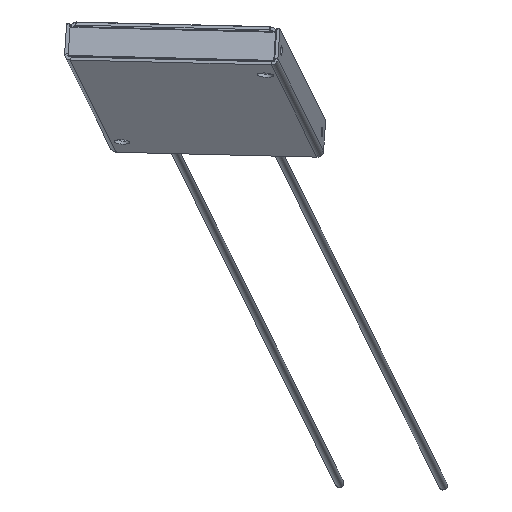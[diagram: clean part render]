
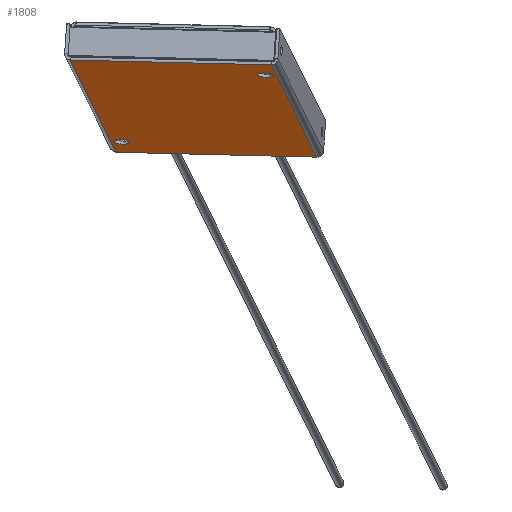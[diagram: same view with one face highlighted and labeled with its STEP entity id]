
A CAD part, left-side view. The second image highlights one B-rep face of the part: STEP entity #1808.
In plain terms, the highlighted planar face has unit normal (-0.27, 0.064, -0.961).
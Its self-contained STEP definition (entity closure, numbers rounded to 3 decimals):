
#85=LINE($,#2786,#238);
#87=LINE($,#2789,#240);
#103=LINE($,#2825,#256);
#104=LINE($,#2827,#257);
#238=VECTOR($,#2272,105.);
#240=VECTOR($,#2276,64.);
#256=VECTOR($,#2312,105.);
#257=VECTOR($,#2315,64.);
#365=PLANE($,#1957);
#427=FACE_BOUND($,#625,.T.);
#428=FACE_BOUND($,#626,.T.);
#429=FACE_BOUND($,#627,.T.);
#625=EDGE_LOOP($,(#1362));
#626=EDGE_LOOP($,(#1363));
#627=EDGE_LOOP($,(#1364,#1365,#1366,#1367));
#722=CIRCLE($,#1928,2.5);
#724=CIRCLE($,#1931,2.5);
#809=VERTEX_POINT($,#2672);
#836=VERTEX_POINT($,#2739);
#838=VERTEX_POINT($,#2744);
#848=VERTEX_POINT($,#2771);
#849=VERTEX_POINT($,#2775);
#859=VERTEX_POINT($,#2815);
#996=EDGE_CURVE($,#836,#836,#722,.T.);
#998=EDGE_CURVE($,#838,#838,#724,.T.);
#1018=EDGE_CURVE($,#848,#849,#85,.T.);
#1020=EDGE_CURVE($,#809,#849,#87,.T.);
#1040=EDGE_CURVE($,#809,#859,#103,.T.);
#1041=EDGE_CURVE($,#848,#859,#104,.T.);
#1362=ORIENTED_EDGE($,*,*,#996,.T.);
#1363=ORIENTED_EDGE($,*,*,#998,.T.);
#1364=ORIENTED_EDGE($,*,*,#1018,.T.);
#1365=ORIENTED_EDGE($,*,*,#1020,.F.);
#1366=ORIENTED_EDGE($,*,*,#1040,.T.);
#1367=ORIENTED_EDGE($,*,*,#1041,.F.);
#1808=ADVANCED_FACE($,(#427,#428,#429),#365,.T.);
#1928=AXIS2_PLACEMENT_3D($,#2740,#2223,#2224);
#1931=AXIS2_PLACEMENT_3D($,#2745,#2229,#2230);
#1957=AXIS2_PLACEMENT_3D($,#2828,#2316,#2317);
#2223=DIRECTION('center_axis',(0.27,-0.064,0.961));
#2224=DIRECTION('ref_axis',(-0.951,0.137,0.277));
#2229=DIRECTION('center_axis',(0.27,-0.064,0.961));
#2230=DIRECTION('ref_axis',(-0.951,0.137,0.277));
#2272=DIRECTION($,(-0.951,0.137,0.277));
#2276=DIRECTION($,(-0.149,-0.988,-0.024));
#2312=DIRECTION($,(0.951,-0.137,-0.277));
#2315=DIRECTION($,(0.149,0.988,0.024));
#2316=DIRECTION('center_axis',(-0.27,0.064,-0.961));
#2317=DIRECTION('ref_axis',(-0.951,0.137,0.277));
#2672=CARTESIAN_POINT('',(-117.961,10.532,-40.703));
#2739=CARTESIAN_POINT('',(-32.41,-5.338,-65.836));
#2740=CARTESIAN_POINT('Origin',(-30.033,-5.681,-66.528));
#2744=CARTESIAN_POINT('',(-117.969,-50.574,-44.778));
#2745=CARTESIAN_POINT('Origin',(-115.591,-50.917,-45.47));
#2771=CARTESIAN_POINT('',(-27.663,-67.13,-71.295));
#2775=CARTESIAN_POINT('',(-127.527,-52.731,-42.232));
#2786=CARTESIAN_POINT($,(-102.561,-56.331,-49.498));
#2789=CARTESIAN_POINT($,(-117.662,12.509,-40.655));
#2815=CARTESIAN_POINT('',(-18.096,-3.867,-69.766));
#2825=CARTESIAN_POINT($,(-43.063,-0.267,-62.5));
#2827=CARTESIAN_POINT($,(-27.962,-69.107,-71.343));
#2828=CARTESIAN_POINT('Origin',(-72.812,-28.299,-55.999));
